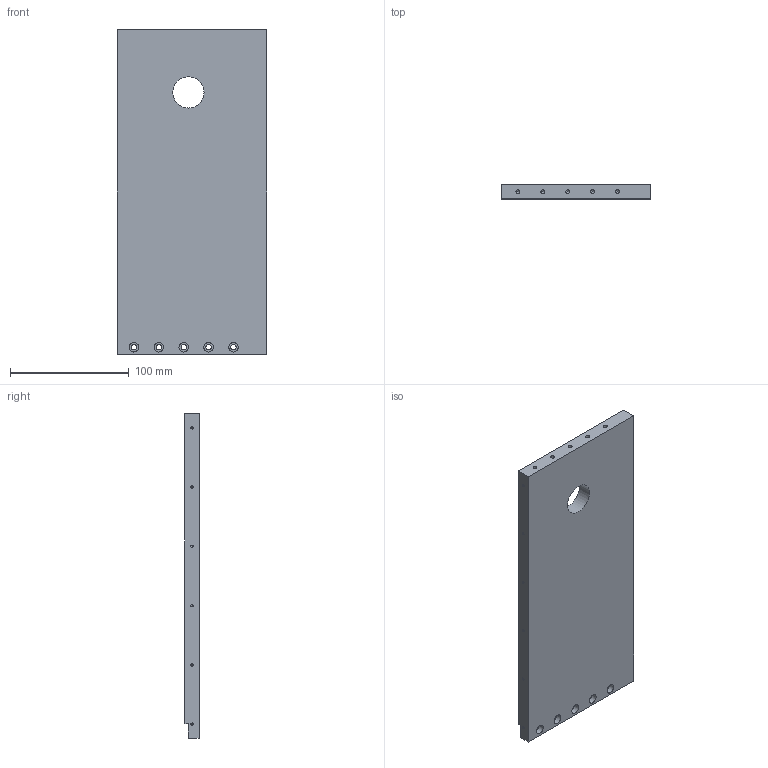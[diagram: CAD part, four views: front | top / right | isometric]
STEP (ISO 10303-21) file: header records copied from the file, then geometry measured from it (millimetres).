
FILE_DESCRIPTION(/* description */ (''),/* implementation_level */ '2;1');
FILE_NAME(/* name */ 'C:\Users\strothej\Documents\ActualDocuments\MicroscopeParts\TwoPhotonSystem\ScanningMechanics\v34\Drawings\Enclosure_Panel6.stp',/* time_stamp */ '2017-09-11T12:11:47-07:00',/* author */ ('strothej'),/* organization */ (''),/* preprocessor_version */ 'ST-DEVELOPER v16.1',/* originating_system */ 'Autodesk Inventor 2016',/* authorisation */ '');
FILE_SCHEMA (('AUTOMOTIVE_DESIGN { 1 0 10303 214 3 1 1 }'));
Length unit declared in the file: millimetre
Products named in the file (1): Enclosure_Panel6
Bounding box: 126 x 12 x 274 mm (x, y, z)
Volume: 398740.5 mm3; surface area: 82125.7 mm2
Topology: 1 solids, 1 shells, 66 faces, 156 edges, 97 vertices
Faces by surface type: cylinder 32, cone 21, plane 13
Full cylindrical faces by diameter (mm): 2.013 x6, 3.242 x5, 4.134 x10, 4.5 x5, 8 x5, 26.289 x1
Entity records: 1490 total; most frequent: DIRECTION 280, CARTESIAN_POINT 225, ORIENTED_EDGE 164, EDGE_LOOP 136, AXIS2_PLACEMENT_3D 131, EDGE_CURVE 82, VERTEX_POINT 76, FACE_BOUND 70
